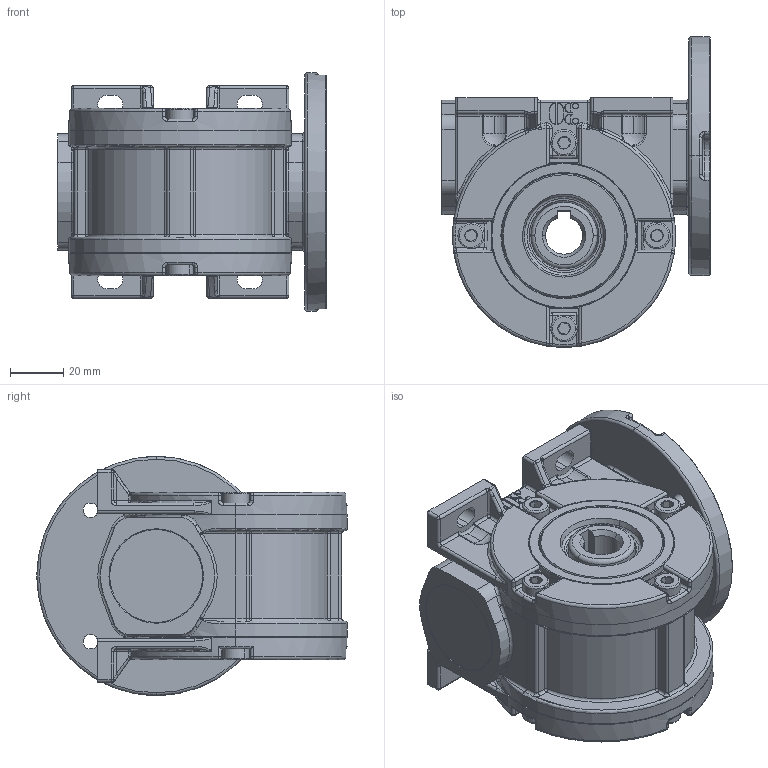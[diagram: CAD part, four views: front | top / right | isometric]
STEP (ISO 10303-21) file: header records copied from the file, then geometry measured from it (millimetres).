
FILE_DESCRIPTION (( 'STEP AP214' ), '1' );
FILE_NAME ('Sestava MRT30A-B.STEP', '2007-06-25T04:11:17', ( '' ), ( '' ), 'SwSTEP 2.0', 'SolidWorks 2004146', '' );
FILE_SCHEMA (( 'AUTOMOTIVE_DESIGN' ));
Length unit declared in the file: millimetre
Products named in the file (15): Sestava MRT30A-B; Snekove ozubeni 002PILIB; Snekove ozubeni 002LAM5B; PATKA-ADA_Výchozí; skrin_30_63_Výchozí; CSN 022931_47_Kroužek 47 ÈSN 022931; naboj_Výchozí; CSN 024630_SKF 6005_Ložisko SKF 6005 ÈSN 024630; CSN 024630_SKF 6300_Ložisko SKF 6300 ÈSN 024630; DIN 3760-NB_AS 20x30x7_Tìsnìní AS 20x30x7 DIN 3760-NB; DIN 5405 - K20X26X17 - 18,SI,AC,18; DIN 3760-NB_A 25x47x7_Tìsnìní A 25x47x7 DIN 3760-NB; DIN 7984_M6x12_Šroub DIN 7984 - M6x12; vicko nbr 35_Výchozí; CSN 022931_35_Kroužek 35 ÈSN 022931
Assembly tree (25 placements, depth 2):
  Sestava MRT30A-B
    DIN 7984_M6x12_Šroub DIN 7984 - M6x12  x8
    CSN 024630_SKF 6300_Ložisko SKF 6300 ÈSN 024630
    Snekove ozubeni 002LAM5B
    CSN 022931_35_Kroužek 35 ÈSN 022931
    DIN 3760-NB_A 25x47x7_Tìsnìní A 25x47x7 DIN 3760-NB  x2
    naboj_Výchozí
    CSN 022931_47_Kroužek 47 ÈSN 022931  x2
    CSN 024630_SKF 6005_Ložisko SKF 6005 ÈSN 024630  x2
    skrin_30_63_Výchozí
    Snekove ozubeni 002PILIB
    PATKA-ADA_Výchozí  x2
    DIN 5405 - K20X26X17 - 18,SI,AC,18
    vicko nbr 35_Výchozí
    DIN 3760-NB_AS 20x30x7_Tìsnìní AS 20x30x7 DIN 3760-NB
Bounding box: 101 x 117 x 90 mm (x, y, z)
Volume: 345033.6 mm3; surface area: 168656.7 mm2
Topology: 25 solids, 25 shells, 2251 faces, 5798 edges, 3452 vertices
Faces by surface type: cylinder 757, torus 455, plane 406, cone 310, bspline 191, sphere 132
Entity records: 98143 total; most frequent: CARTESIAN_POINT 60746, ORIENTED_EDGE 7850, DIRECTION 7426, EDGE_CURVE 3925, AXIS2_PLACEMENT_3D 3288, VERTEX_POINT 2417, CIRCLE 1833, EDGE_LOOP 1658
